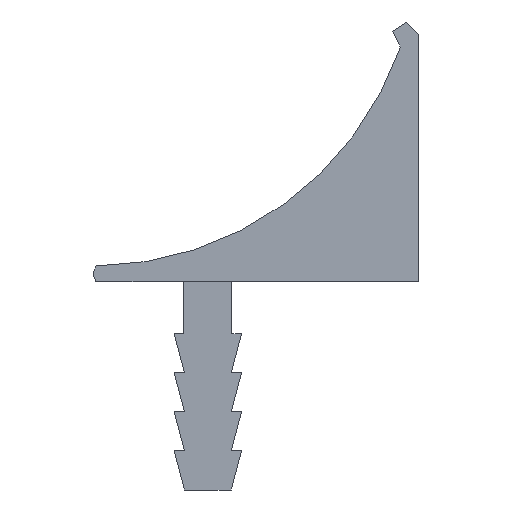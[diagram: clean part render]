
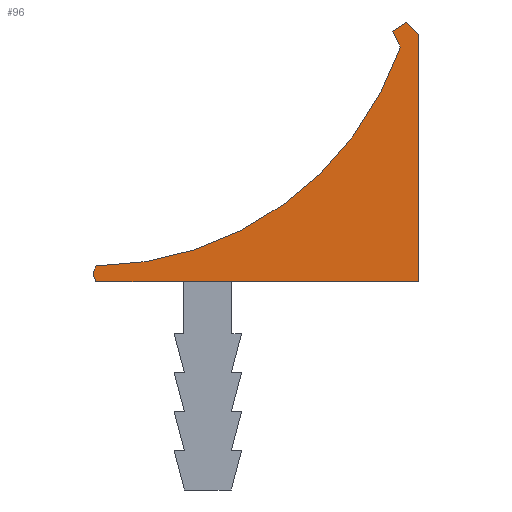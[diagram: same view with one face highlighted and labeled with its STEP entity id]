
A CAD part, left-side view. The second image highlights one B-rep face of the part: STEP entity #96.
In plain terms, the highlighted planar face has unit normal (-1, 0, 0).
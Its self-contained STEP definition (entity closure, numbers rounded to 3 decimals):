
#96 = ADVANCED_FACE( '', ( #192 ), #193, .F. );
#192 = FACE_OUTER_BOUND( '', #284, .T. );
#193 = PLANE( '', #285 );
#284 = EDGE_LOOP( '', ( #515, #516, #517, #518, #519 ) );
#285 = AXIS2_PLACEMENT_3D( '', #520, #521, #522 );
#515 = ORIENTED_EDGE( '', *, *, #603, .F. );
#516 = ORIENTED_EDGE( '', *, *, #638, .F. );
#517 = ORIENTED_EDGE( '', *, *, #643, .F. );
#518 = ORIENTED_EDGE( '', *, *, #607, .F. );
#519 = ORIENTED_EDGE( '', *, *, #584, .T. );
#520 = CARTESIAN_POINT( '', ( -30., 3.507, 21.117 ) );
#521 = DIRECTION( '', ( 1., 0., 0. ) );
#522 = DIRECTION( '', ( 0., 0., -1. ) );
#584 = EDGE_CURVE( '', #701, #702, #703, .T. );
#603 = EDGE_CURVE( '', #734, #702, #735, .T. );
#607 = EDGE_CURVE( '', #701, #740, #741, .T. );
#638 = EDGE_CURVE( '', #786, #734, #788, .T. );
#643 = EDGE_CURVE( '', #740, #786, #793, .T. );
#701 = VERTEX_POINT( '', #869 );
#702 = VERTEX_POINT( '', #870 );
#703 = CIRCLE( '', #871, 12.5 );
#734 = VERTEX_POINT( '', #915 );
#735 = CIRCLE( '', #916, 0.5 );
#740 = VERTEX_POINT( '', #922 );
#741 = CIRCLE( '', #923, 0.502 );
#786 = VERTEX_POINT( '', #991 );
#788 = LINE( '', #994, #995 );
#793 = LINE( '', #1002, #1003 );
#869 = CARTESIAN_POINT( '', ( -30., -8.308, 17.036 ) );
#870 = CARTESIAN_POINT( '', ( -30., 3.386, 8.617 ) );
#871 = AXIS2_PLACEMENT_3D( '', #1057, #1058, #1059 );
#915 = CARTESIAN_POINT( '', ( -30., 3.402, 8. ) );
#916 = AXIS2_PLACEMENT_3D( '', #1076, #1077, #1078 );
#922 = CARTESIAN_POINT( '', ( -30., -8.998, 17.501 ) );
#923 = AXIS2_PLACEMENT_3D( '', #1083, #1084, #1085 );
#991 = CARTESIAN_POINT( '', ( -30., -8.998, 8. ) );
#994 = CARTESIAN_POINT( '', ( -30., -8.998, 8. ) );
#995 = VECTOR( '', #1113, 1000. );
#1002 = CARTESIAN_POINT( '', ( -30., -8.998, 17.501 ) );
#1003 = VECTOR( '', #1116, 1000. );
#1057 = CARTESIAN_POINT( '', ( -30., 3.507, 21.117 ) );
#1058 = DIRECTION( '', ( 1., 0., 0. ) );
#1059 = DIRECTION( '', ( 0., 0., -1. ) );
#1076 = CARTESIAN_POINT( '', ( -30., 3.001, 8.299 ) );
#1077 = DIRECTION( '', ( 1., 0., 0. ) );
#1078 = DIRECTION( '', ( 0., 0., -1. ) );
#1083 = CARTESIAN_POINT( '', ( -30., -8.496, 17.501 ) );
#1084 = DIRECTION( '', ( 1., 0., 0. ) );
#1085 = DIRECTION( '', ( 0., 0., -1. ) );
#1113 = DIRECTION( '', ( 0., 1., 0. ) );
#1116 = DIRECTION( '', ( 0., 0., -1. ) );
